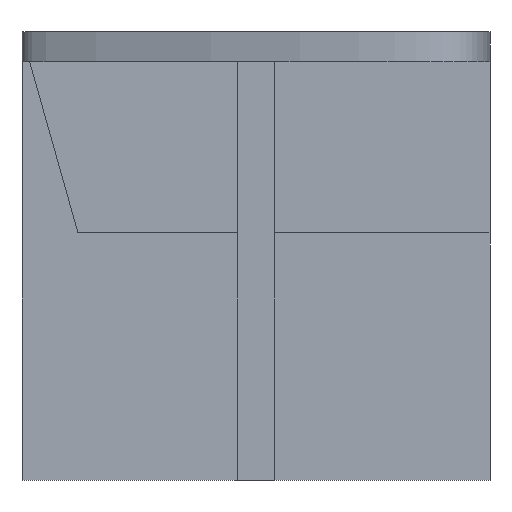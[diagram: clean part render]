
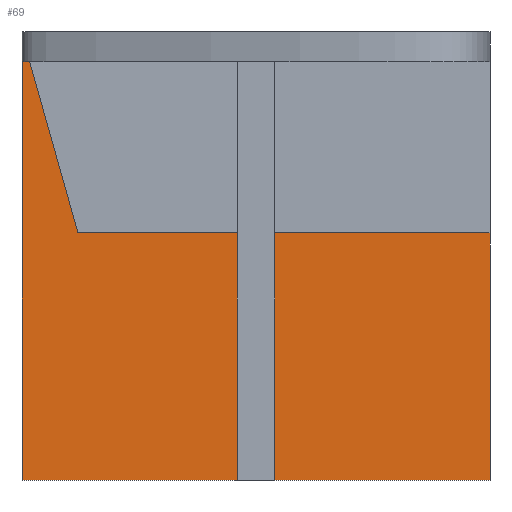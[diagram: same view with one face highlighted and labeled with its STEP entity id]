
A CAD part, left-side view. The second image highlights one B-rep face of the part: STEP entity #69.
In plain terms, the highlighted planar face has unit normal (-1, 0, 0).
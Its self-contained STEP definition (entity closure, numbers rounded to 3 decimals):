
#13=(
BOUNDED_CURVE()
B_SPLINE_CURVE(1,(#1278,#1279),.UNSPECIFIED.,.F.,.F.)
B_SPLINE_CURVE_WITH_KNOTS((2,2),(-480.977,-282.795),
 .UNSPECIFIED.)
CURVE()
GEOMETRIC_REPRESENTATION_ITEM()
RATIONAL_B_SPLINE_CURVE((1.,1.))
REPRESENTATION_ITEM('')
);
#69=ADVANCED_FACE('',(#112),#659,.T.);
#112=FACE_OUTER_BOUND('',#155,.T.);
#155=EDGE_LOOP('',(#326,#327,#328,#329,#330,#331,#332));
#326=ORIENTED_EDGE('',*,*,#452,.T.);
#327=ORIENTED_EDGE('',*,*,#447,.F.);
#328=ORIENTED_EDGE('',*,*,#444,.F.);
#329=ORIENTED_EDGE('',*,*,#446,.T.);
#330=ORIENTED_EDGE('',*,*,#440,.T.);
#331=ORIENTED_EDGE('',*,*,#454,.T.);
#332=ORIENTED_EDGE('',*,*,#453,.F.);
#440=EDGE_CURVE('',#609,#616,#541,.T.);
#444=EDGE_CURVE('',#613,#614,#545,.T.);
#446=EDGE_CURVE('',#613,#609,#547,.T.);
#447=EDGE_CURVE('',#614,#621,#548,.T.);
#452=EDGE_CURVE('',#620,#621,#13,.T.);
#453=EDGE_CURVE('',#620,#622,#552,.T.);
#454=EDGE_CURVE('',#616,#622,#553,.T.);
#541=B_SPLINE_CURVE_WITH_KNOTS('',1,(#1254,#1255),.UNSPECIFIED.,.F.,.F.,
(2,2),(0.,195.579),.UNSPECIFIED.);
#545=B_SPLINE_CURVE_WITH_KNOTS('',1,(#1262,#1263),.UNSPECIFIED.,.F.,.F.,
(2,2),(0.,331.137),.UNSPECIFIED.);
#547=B_SPLINE_CURVE_WITH_KNOTS('',1,(#1266,#1267),.UNSPECIFIED.,.F.,.F.,
(2,2),(716.412,1332.824),.UNSPECIFIED.);
#548=B_SPLINE_CURVE_WITH_KNOTS('',1,(#1268,#1269),.UNSPECIFIED.,.F.,.F.,
(2,2),(716.412,726.739),.UNSPECIFIED.);
#552=B_SPLINE_CURVE_WITH_KNOTS('',1,(#1280,#1281),.UNSPECIFIED.,.F.,.F.,
(2,2),(790.432,904.098),.UNSPECIFIED.);
#553=B_SPLINE_CURVE_WITH_KNOTS('',1,(#1282,#1283),.UNSPECIFIED.,.F.,.F.,
(2,2),(-1332.824,-904.098),.UNSPECIFIED.);
#609=VERTEX_POINT('',#1236);
#613=VERTEX_POINT('',#1240);
#614=VERTEX_POINT('',#1241);
#616=VERTEX_POINT('',#1243);
#620=VERTEX_POINT('',#1247);
#621=VERTEX_POINT('',#1248);
#622=VERTEX_POINT('',#1249);
#659=PLANE('',#716);
#716=AXIS2_PLACEMENT_3D('',#1212,#757,$);
#757=DIRECTION('',(-1.,0.,0.));
#1212=CARTESIAN_POINT('',(31411.888,-11333.31,0.));
#1236=CARTESIAN_POINT('',(31411.888,-11959.713,0.));
#1240=CARTESIAN_POINT('',(31411.888,-11333.31,0.));
#1241=CARTESIAN_POINT('',(31411.888,-11333.31,560.652));
#1243=CARTESIAN_POINT('',(31411.888,-11959.713,331.137));
#1247=CARTESIAN_POINT('',(31411.888,-11408.529,331.137));
#1248=CARTESIAN_POINT('',(31411.888,-11343.804,560.652));
#1249=CARTESIAN_POINT('',(31411.888,-11524.038,331.137));
#1254=CARTESIAN_POINT('',(31411.888,-11959.713,0.));
#1255=CARTESIAN_POINT('',(31411.888,-11959.713,331.137));
#1262=CARTESIAN_POINT('',(31411.888,-11333.31,0.));
#1263=CARTESIAN_POINT('',(31411.888,-11333.31,560.652));
#1266=CARTESIAN_POINT('',(31411.888,-11333.31,0.));
#1267=CARTESIAN_POINT('',(31411.888,-11959.713,0.));
#1268=CARTESIAN_POINT('',(31411.888,-11333.31,560.652));
#1269=CARTESIAN_POINT('',(31411.888,-11343.804,560.652));
#1278=CARTESIAN_POINT('',(31411.888,-11408.529,331.137));
#1279=CARTESIAN_POINT('',(31411.888,-11343.804,560.652));
#1280=CARTESIAN_POINT('',(31411.888,-11408.529,331.137));
#1281=CARTESIAN_POINT('',(31411.888,-11524.038,331.137));
#1282=CARTESIAN_POINT('',(31411.888,-11959.713,331.137));
#1283=CARTESIAN_POINT('',(31411.888,-11524.038,331.137));
